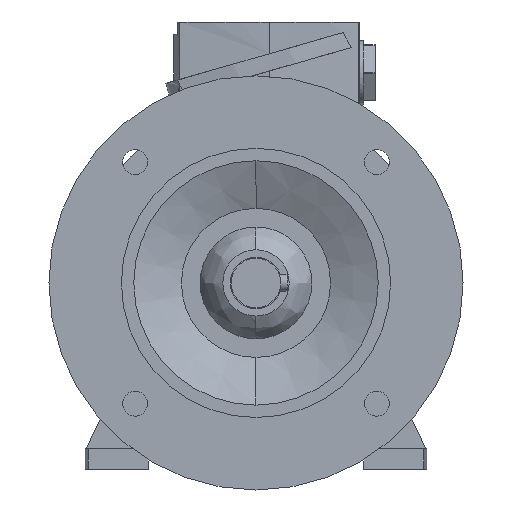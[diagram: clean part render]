
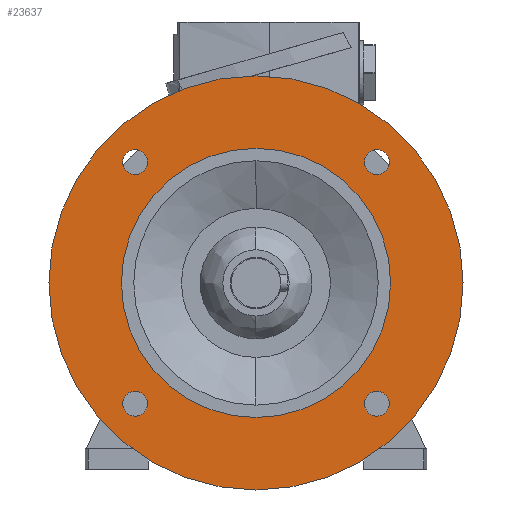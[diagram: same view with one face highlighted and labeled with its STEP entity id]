
A CAD part, left-side view. The second image highlights one B-rep face of the part: STEP entity #23637.
In plain terms, the highlighted planar face has unit normal (-1, 0, 0).
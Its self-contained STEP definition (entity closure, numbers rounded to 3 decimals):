
#27 = VERTEX_POINT ( 'NONE', #16858 ) ;
#37 = VERTEX_POINT ( 'NONE', #16875 ) ;
#1368 = CARTESIAN_POINT ( 'NONE',  ( -34.5, 0., -65. ) ) ;
#1388 = CARTESIAN_POINT ( 'NONE',  ( -34.5, 58.336, 64.336 ) ) ;
#1507 = CARTESIAN_POINT ( 'NONE',  ( -34.5, 58.336, -52.336 ) ) ;
#1559 = CARTESIAN_POINT ( 'NONE',  ( -34.5, 0., 65. ) ) ;
#1565 = CARTESIAN_POINT ( 'NONE',  ( -34.5, 58.336, -64.336 ) ) ;
#1647 = CARTESIAN_POINT ( 'NONE',  ( -34.5, 0., 100. ) ) ;
#1653 = CARTESIAN_POINT ( 'NONE',  ( -34.5, 0., -100. ) ) ;
#1669 = CARTESIAN_POINT ( 'NONE',  ( -34.5, -58.336, -52.336 ) ) ;
#2606 = EDGE_CURVE ( 'NONE', #20002, #10383, #12732, .T. ) ;
#2607 = EDGE_CURVE ( 'NONE', #10279, #10221, #12729, .T. ) ;
#7088 = ORIENTED_EDGE ( 'NONE', *, *, #11281, .T. ) ;
#7089 = ORIENTED_EDGE ( 'NONE', *, *, #11206, .T. ) ;
#7090 = ORIENTED_EDGE ( 'NONE', *, *, #11279, .F. ) ;
#7091 = ORIENTED_EDGE ( 'NONE', *, *, #11232, .F. ) ;
#7092 = ORIENTED_EDGE ( 'NONE', *, *, #11278, .T. ) ;
#7093 = ORIENTED_EDGE ( 'NONE', *, *, #11243, .T. ) ;
#7094 = ORIENTED_EDGE ( 'NONE', *, *, #11277, .T. ) ;
#7095 = ORIENTED_EDGE ( 'NONE', *, *, #11242, .T. ) ;
#7096 = ORIENTED_EDGE ( 'NONE', *, *, #2607, .T. ) ;
#7097 = ORIENTED_EDGE ( 'NONE', *, *, #11233, .T. ) ;
#7098 = ORIENTED_EDGE ( 'NONE', *, *, #2606, .T. ) ;
#7099 = ORIENTED_EDGE ( 'NONE', *, *, #11250, .T. ) ;
#9162 = CIRCLE ( 'NONE', #22836, 65. ) ;
#9201 = CIRCLE ( 'NONE', #22849, 100. ) ;
#9203 = CIRCLE ( 'NONE', #22850, 6. ) ;
#9216 = CIRCLE ( 'NONE', #22853, 6. ) ;
#9217 = CIRCLE ( 'NONE', #22854, 6. ) ;
#9227 = CIRCLE ( 'NONE', #22858, 6. ) ;
#9263 = CIRCLE ( 'NONE', #22867, 6. ) ;
#9265 = CIRCLE ( 'NONE', #22868, 6. ) ;
#9266 = CIRCLE ( 'NONE', #22869, 100. ) ;
#9268 = CIRCLE ( 'NONE', #22871, 65. ) ;
#10135 = VERTEX_POINT ( 'NONE', #1368 ) ;
#10146 = VERTEX_POINT ( 'NONE', #1388 ) ;
#10221 = VERTEX_POINT ( 'NONE', #1507 ) ;
#10273 = VERTEX_POINT ( 'NONE', #1559 ) ;
#10279 = VERTEX_POINT ( 'NONE', #1565 ) ;
#10361 = VERTEX_POINT ( 'NONE', #1647 ) ;
#10367 = VERTEX_POINT ( 'NONE', #1653 ) ;
#10383 = VERTEX_POINT ( 'NONE', #1669 ) ;
#10396 = DIRECTION ( 'NONE',  ( 1., 0., 0. ) ) ;
#10397 = DIRECTION ( 'NONE',  ( 0., 0., 1. ) ) ;
#10460 = CARTESIAN_POINT ( 'NONE',  ( -34.5, 0., 0. ) ) ;
#10461 = DIRECTION ( 'NONE',  ( 1., 0., 0. ) ) ;
#10462 = DIRECTION ( 'NONE',  ( 0., 0., 1. ) ) ;
#10465 = CARTESIAN_POINT ( 'NONE',  ( -34.5, 58.336, -58.336 ) ) ;
#10466 = DIRECTION ( 'NONE',  ( 1., 0., 0. ) ) ;
#10467 = DIRECTION ( 'NONE',  ( 0., 0., -1. ) ) ;
#10483 = CARTESIAN_POINT ( 'NONE',  ( -34.5, 58.336, 58.336 ) ) ;
#10484 = DIRECTION ( 'NONE',  ( 1., 0., 0. ) ) ;
#10485 = DIRECTION ( 'NONE',  ( 0., 0., -1. ) ) ;
#10487 = CARTESIAN_POINT ( 'NONE',  ( -34.5, -58.336, 58.336 ) ) ;
#10488 = DIRECTION ( 'NONE',  ( 1., 0., 0. ) ) ;
#10489 = DIRECTION ( 'NONE',  ( 0., 0., -1. ) ) ;
#10505 = CARTESIAN_POINT ( 'NONE',  ( -34.5, -58.336, -58.336 ) ) ;
#10506 = DIRECTION ( 'NONE',  ( 1., 0., 0. ) ) ;
#10507 = DIRECTION ( 'NONE',  ( 0., 0., -1. ) ) ;
#10596 = CARTESIAN_POINT ( 'NONE',  ( -34.5, 58.336, 58.336 ) ) ;
#10597 = DIRECTION ( 'NONE',  ( 1., 0., 0. ) ) ;
#10598 = DIRECTION ( 'NONE',  ( 0., 0., -1. ) ) ;
#10599 = CARTESIAN_POINT ( 'NONE',  ( -34.5, -58.336, 58.336 ) ) ;
#10600 = DIRECTION ( 'NONE',  ( 1., 0., 0. ) ) ;
#10601 = DIRECTION ( 'NONE',  ( 0., 0., -1. ) ) ;
#10602 = CARTESIAN_POINT ( 'NONE',  ( -34.5, 0., 0. ) ) ;
#10603 = DIRECTION ( 'NONE',  ( 1., 0., 0. ) ) ;
#10604 = DIRECTION ( 'NONE',  ( 0., 0., 1. ) ) ;
#10608 = CARTESIAN_POINT ( 'NONE',  ( -34.5, 0., 0. ) ) ;
#10609 = DIRECTION ( 'NONE',  ( 1., 0., 0. ) ) ;
#10610 = DIRECTION ( 'NONE',  ( 0., 0., 1. ) ) ;
#11206 = EDGE_CURVE ( 'NONE', #10135, #10273, #9162, .T. ) ;
#11232 = EDGE_CURVE ( 'NONE', #10367, #10361, #9201, .T. ) ;
#11233 = EDGE_CURVE ( 'NONE', #10221, #10279, #9203, .T. ) ;
#11242 = EDGE_CURVE ( 'NONE', #10146, #37, #9216, .T. ) ;
#11243 = EDGE_CURVE ( 'NONE', #20005, #27, #9217, .T. ) ;
#11250 = EDGE_CURVE ( 'NONE', #10383, #20002, #9227, .T. ) ;
#11277 = EDGE_CURVE ( 'NONE', #37, #10146, #9263, .T. ) ;
#11278 = EDGE_CURVE ( 'NONE', #27, #20005, #9265, .T. ) ;
#11279 = EDGE_CURVE ( 'NONE', #10361, #10367, #9266, .T. ) ;
#11281 = EDGE_CURVE ( 'NONE', #10273, #10135, #9268, .T. ) ;
#11347 = AXIS2_PLACEMENT_3D ( 'NONE', #16566, #16568, #16569 ) ;
#11348 = AXIS2_PLACEMENT_3D ( 'NONE', #16572, #16573, #16574 ) ;
#12342 = CARTESIAN_POINT ( 'NONE',  ( -34.5, 0., 0. ) ) ;
#12729 = CIRCLE ( 'NONE', #11348, 6. ) ;
#12732 = CIRCLE ( 'NONE', #11347, 6. ) ;
#16375 = FACE_BOUND ( 'NONE', #19830, .T. ) ;
#16385 = FACE_BOUND ( 'NONE', #19828, .T. ) ;
#16390 = FACE_BOUND ( 'NONE', #19824, .T. ) ;
#16392 = FACE_BOUND ( 'NONE', #19822, .T. ) ;
#16393 = FACE_OUTER_BOUND ( 'NONE', #19825, .T. ) ;
#16394 = FACE_BOUND ( 'NONE', #19831, .T. ) ;
#16566 = CARTESIAN_POINT ( 'NONE',  ( -34.5, -58.336, -58.336 ) ) ;
#16568 = DIRECTION ( 'NONE',  ( 1., 0., 0. ) ) ;
#16569 = DIRECTION ( 'NONE',  ( 0., 0., -1. ) ) ;
#16572 = CARTESIAN_POINT ( 'NONE',  ( -34.5, 58.336, -58.336 ) ) ;
#16573 = DIRECTION ( 'NONE',  ( 1., 0., 0. ) ) ;
#16574 = DIRECTION ( 'NONE',  ( 0., 0., -1. ) ) ;
#16802 = AXIS2_PLACEMENT_3D ( 'NONE', #19663, #19658, #19664 ) ;
#16858 = CARTESIAN_POINT ( 'NONE',  ( -34.5, -58.336, 52.336 ) ) ;
#16875 = CARTESIAN_POINT ( 'NONE',  ( -34.5, 58.336, 52.336 ) ) ;
#19656 = PLANE ( 'NONE',  #16802 ) ;
#19658 = DIRECTION ( 'NONE',  ( -1., 0., 0. ) ) ;
#19663 = CARTESIAN_POINT ( 'NONE',  ( -34.5, 82.5, 0. ) ) ;
#19664 = DIRECTION ( 'NONE',  ( 0., 0., 1. ) ) ;
#19822 = EDGE_LOOP ( 'NONE', ( #7094, #7095 ) ) ;
#19824 = EDGE_LOOP ( 'NONE', ( #7092, #7093 ) ) ;
#19825 = EDGE_LOOP ( 'NONE', ( #7090, #7091 ) ) ;
#19828 = EDGE_LOOP ( 'NONE', ( #7088, #7089 ) ) ;
#19830 = EDGE_LOOP ( 'NONE', ( #7096, #7097 ) ) ;
#19831 = EDGE_LOOP ( 'NONE', ( #7098, #7099 ) ) ;
#20002 = VERTEX_POINT ( 'NONE', #24634 ) ;
#20005 = VERTEX_POINT ( 'NONE', #24637 ) ;
#22836 = AXIS2_PLACEMENT_3D ( 'NONE', #12342, #10396, #10397 ) ;
#22849 = AXIS2_PLACEMENT_3D ( 'NONE', #10460, #10461, #10462 ) ;
#22850 = AXIS2_PLACEMENT_3D ( 'NONE', #10465, #10466, #10467 ) ;
#22853 = AXIS2_PLACEMENT_3D ( 'NONE', #10483, #10484, #10485 ) ;
#22854 = AXIS2_PLACEMENT_3D ( 'NONE', #10487, #10488, #10489 ) ;
#22858 = AXIS2_PLACEMENT_3D ( 'NONE', #10505, #10506, #10507 ) ;
#22867 = AXIS2_PLACEMENT_3D ( 'NONE', #10596, #10597, #10598 ) ;
#22868 = AXIS2_PLACEMENT_3D ( 'NONE', #10599, #10600, #10601 ) ;
#22869 = AXIS2_PLACEMENT_3D ( 'NONE', #10602, #10603, #10604 ) ;
#22871 = AXIS2_PLACEMENT_3D ( 'NONE', #10608, #10609, #10610 ) ;
#23637 = ADVANCED_FACE ( 'NONE', ( #16385, #16393, #16390, #16392, #16375, #16394 ), #19656, .T. ) ;
#24634 = CARTESIAN_POINT ( 'NONE',  ( -34.5, -58.336, -64.336 ) ) ;
#24637 = CARTESIAN_POINT ( 'NONE',  ( -34.5, -58.336, 64.336 ) ) ;
